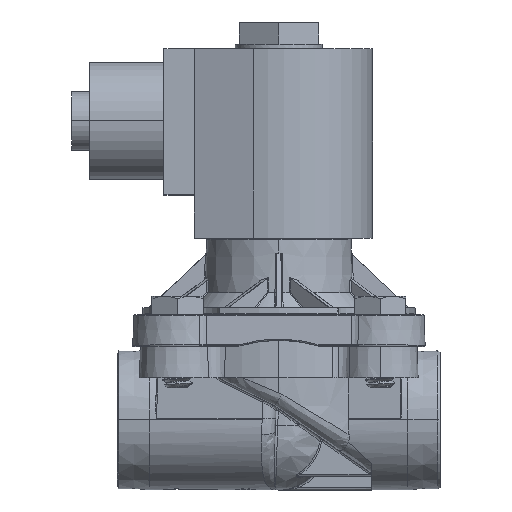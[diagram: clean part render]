
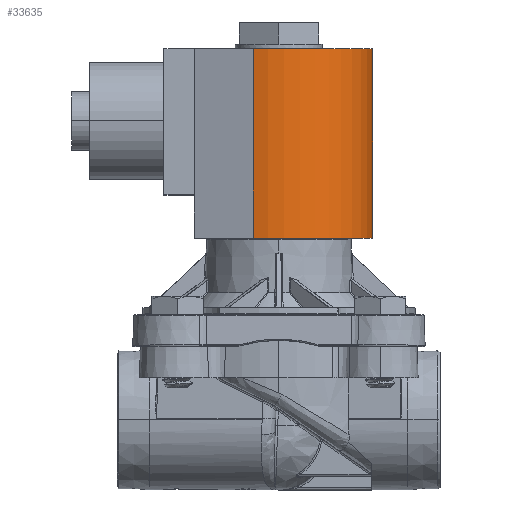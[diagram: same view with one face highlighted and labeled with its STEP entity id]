
A CAD part, top view. The second image highlights one B-rep face of the part: STEP entity #33635.
In plain terms, the highlighted cylindrical face has radius 20.32 mm (diameter 40.64 mm), a partial arc.
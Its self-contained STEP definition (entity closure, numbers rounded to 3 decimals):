
#1168 = CARTESIAN_POINT ( 'NONE',  ( 20.348, 73.534, 0.001 ) ) ;
#13311 = CIRCLE ( 'NONE', #26909, 20.32 ) ;
#16479 = ORIENTED_EDGE ( 'NONE', *, *, #74915, .F. ) ;
#20835 = LINE ( 'NONE', #54076, #56731 ) ;
#22157 = EDGE_CURVE ( 'NONE', #95632, #33439, #20835, .T. ) ;
#22956 = ORIENTED_EDGE ( 'NONE', *, *, #77244, .F. ) ;
#23374 = EDGE_CURVE ( 'NONE', #33439, #29371, #26075, .T. ) ;
#25396 = FACE_OUTER_BOUND ( 'NONE', #34836, .T. ) ;
#25573 = CARTESIAN_POINT ( 'NONE',  ( -5.58, 73.534, 19.531 ) ) ;
#26075 = CIRCLE ( 'NONE', #43158, 20.32 ) ;
#26808 = CARTESIAN_POINT ( 'NONE',  ( 0.028, 73.534, 0.001 ) ) ;
#26909 = AXIS2_PLACEMENT_3D ( 'NONE', #26808, #59549, #92275 ) ;
#29371 = VERTEX_POINT ( 'NONE', #64366 ) ;
#33439 = VERTEX_POINT ( 'NONE', #53366 ) ;
#33635 = ADVANCED_FACE ( 'Defeatured_0_654', ( #25396 ), #67234, .T. ) ;
#34064 = ORIENTED_EDGE ( 'NONE', *, *, #23374, .T. ) ;
#34267 = CARTESIAN_POINT ( 'NONE',  ( 20.348, 73.534, 0.001 ) ) ;
#34836 = EDGE_LOOP ( 'NONE', ( #16479, #22956, #89724, #34064 ) ) ;
#40274 = LINE ( 'NONE', #1168, #55967 ) ;
#40794 = DIRECTION ( 'NONE',  ( 0., -1., 0. ) ) ;
#41134 = DIRECTION ( 'NONE',  ( -1., 0., 0. ) ) ;
#43158 = AXIS2_PLACEMENT_3D ( 'NONE', #81418, #73875, #41134 ) ;
#43917 = DIRECTION ( 'NONE',  ( 0., -1., 0. ) ) ;
#53366 = CARTESIAN_POINT ( 'NONE',  ( -5.58, 32.386, 19.531 ) ) ;
#54076 = CARTESIAN_POINT ( 'NONE',  ( -5.58, 73.534, 19.531 ) ) ;
#55967 = VECTOR ( 'NONE', #40794, 1000. ) ;
#56731 = VECTOR ( 'NONE', #43917, 1000. ) ;
#57592 = CARTESIAN_POINT ( 'NONE',  ( 0.028, 73.534, 0.001 ) ) ;
#59174 = DIRECTION ( 'NONE',  ( 1., 0., 0. ) ) ;
#59549 = DIRECTION ( 'NONE',  ( 0., 1., 0. ) ) ;
#64366 = CARTESIAN_POINT ( 'NONE',  ( 20.348, 32.386, 0.001 ) ) ;
#65121 = DIRECTION ( 'NONE',  ( 0., -1., 0. ) ) ;
#67234 = CYLINDRICAL_SURFACE ( 'NONE', #78921, 20.32 ) ;
#73875 = DIRECTION ( 'NONE',  ( 0., 1., 0. ) ) ;
#74915 = EDGE_CURVE ( 'NONE', #77848, #29371, #40274, .T. ) ;
#77244 = EDGE_CURVE ( 'NONE', #95632, #77848, #13311, .T. ) ;
#77848 = VERTEX_POINT ( 'NONE', #34267 ) ;
#78921 = AXIS2_PLACEMENT_3D ( 'NONE', #57592, #65121, #59174 ) ;
#81418 = CARTESIAN_POINT ( 'NONE',  ( 0.028, 32.386, 0.001 ) ) ;
#89724 = ORIENTED_EDGE ( 'NONE', *, *, #22157, .T. ) ;
#92275 = DIRECTION ( 'NONE',  ( -1., 0., 0. ) ) ;
#95632 = VERTEX_POINT ( 'NONE', #25573 ) ;
